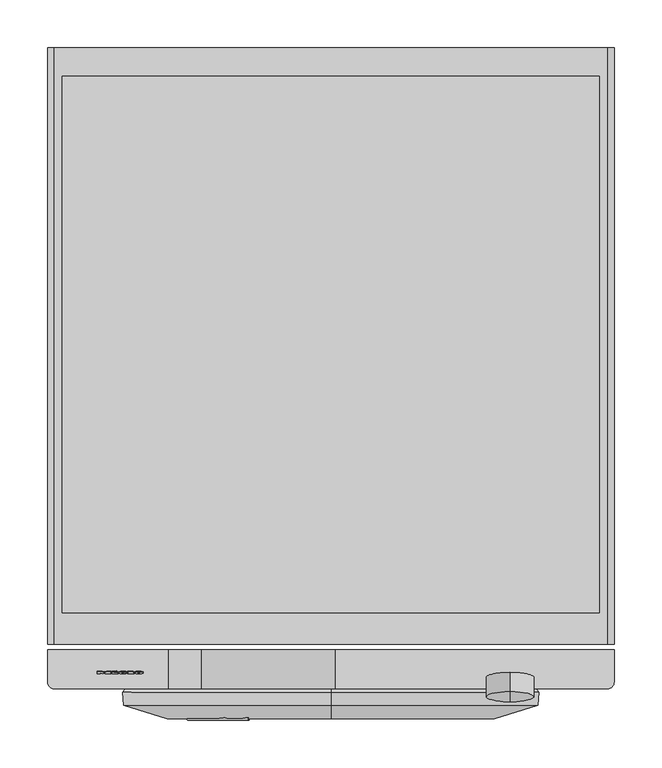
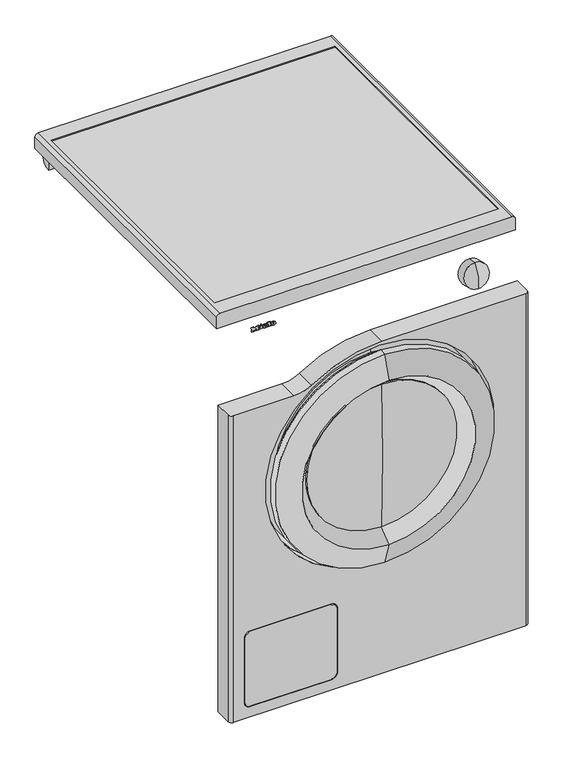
"""IFC4 building model written with IfcOpenShell, lengths in millimetres: proxy geometry, 11169820_ZER_PWM507DP_LWSpecial : 51507191_ZER_11169820_PWM507DP_LWSpecial."""

from ifc_helpers import new_model, si_unit, point, frame, frame_2d, origin, place, context, project, spatial, polyline, circle_curve, ellipse_curve, trimmed, segment, composite_curve, outline, extrude, source, transform, mapped, element, save
from ifc_brep_helpers import plane_surface, cylinder_surface, revolved_surface, extruded_surface, advanced_brep


def specialty_equipment_2d1db38d(model_context):
    return source(origin(), model_context, "Body", "SolidModel", [
        advanced_brep(
        [(298.0, -637.0, 712.0), (298.0, -637.0, 13.5), (-298.0, -637.0, 13.5), (-298.0, -637.0, 659.0), (-170.4793435, -637.0, 659.0), (-135.8816811, -637.0, 669.4495268), (5.0, -637.0, 712.0), (0.0, -637.0, 628.0), (0.0, -637.0, 328.0), (-97.8720399, -637.0, 194.7938843), (-257.5266894, -637.0, 194.7938843), (-269.1610931, -637.0, 183.1594806), (-269.1610931, -637.0, 47.2319133), (-257.1610931, -637.0, 35.2319133), (-96.1598327, -637.0, 35.2319133), (-84.1993866, -637.0, 47.1923594), (-84.1993866, -637.0, 184.6186728), (-291.0, -678.0, 13.5), (291.0, -678.0, 13.5), (291.0, -678.0, 712.0), (5.0, -678.0, 712.0), (-135.8816811, -678.0, 669.4495268), (-170.4793435, -678.0, 659.0), (-291.0, -678.0, 659.0), (0.0, -678.0, 250.5), (0.0, -678.0, 705.5), (-257.5266894, -678.0, 194.7938843), (-97.8720399, -678.0, 194.7938843), (-84.1993866, -678.0, 184.6186728), (-84.1993866, -678.0, 47.1923594), (-96.1598327, -678.0, 35.2319133), (-257.1610931, -678.0, 35.2319133), (-269.1610931, -678.0, 47.2319133), (-269.1610931, -678.0, 183.1594806), (298.0, -671.0, 712.0), (-298.0, -671.0, 13.5), (-298.0, -671.0, 659.0), (298.0, -671.0, 13.5), (0.0, -653.2, 705.5), (0.0, -653.2, 250.5), (0.0, -645.7, 671.0), (0.0, -645.7, 698.0), (0.0, -645.7, 258.0), (0.0, -645.7, 285.0), (0.0, -638.7, 289.0414519), (0.0, -638.7, 666.9585481), (0.0, -638.7, 322.8), (0.0, -638.7, 633.2), (0.0, -648.5, 322.8), (0.0, -648.5, 633.2), (0.0, -648.5, 341.8), (0.0, -648.5, 614.2), (0.0, -646.0, 341.8), (0.0, -646.0, 614.2), (0.0, -646.0, 328.0), (0.0, -646.0, 628.0)],
        [
            (0, 1),
            (1, 2),
            (2, 3),
            (3, 4),
            (4, 5, circle_curve(frame((-170.4793435, -637.0, 721.5), z_axis=(0.0, -1.0, 0.0), x_axis=(1.0, 0.0, 0.0)), 62.5)),
            (5, 6, circle_curve(frame((5.0, -637.0, 457.5), z_axis=(0.0, 1.0, 0.0), x_axis=(1.0, 0.0, 0.0)), 254.5)),
            (6, 0),
            (7, 8, circle_curve(frame((0.0, -637.0, 478.0), z_axis=(0.0, -1.0, 0.0), x_axis=(0.0, 0.0, -1.0)), 150.0)),
            (8, 7, circle_curve(frame((0.0, -637.0, 478.0), z_axis=(0.0, -1.0, 0.0), x_axis=(0.0, 0.0, -1.0)), 150.0)),
            (9, 10),
            (10, 11, circle_curve(frame((-257.5266894, -637.0, 183.1594806), z_axis=(0.0, -1.0, 0.0), x_axis=(1.0, 0.0, 0.0)), 11.6344037)),
            (11, 12),
            (12, 13, circle_curve(frame((-257.1610931, -637.0, 47.2319133), z_axis=(0.0, -1.0, 0.0), x_axis=(1.0, 0.0, 0.0)), 12.0)),
            (13, 14),
            (14, 15, circle_curve(frame((-96.1598327, -637.0, 47.1923594), z_axis=(0.0, -1.0, 0.0), x_axis=(1.0, 0.0, 0.0)), 11.9604461)),
            (15, 16),
            (16, 9, circle_curve(frame((-97.8720399, -637.0, 180.5201576), z_axis=(0.0, -1.0, 0.0), x_axis=(1.0, 0.0, 0.0)), 14.2737268)),
            (17, 18),
            (18, 19),
            (19, 20),
            (20, 21, circle_curve(frame((5.0, -678.0, 457.5), z_axis=(0.0, -1.0, 0.0), x_axis=(1.0, 0.0, 0.0)), 254.5)),
            (21, 22, circle_curve(frame((-170.4793435, -678.0, 721.5), z_axis=(0.0, 1.0, 0.0), x_axis=(1.0, 0.0, 0.0)), 62.5)),
            (22, 23),
            (23, 17),
            (24, 25, circle_curve(frame((0.0, -678.0, 478.0), z_axis=(0.0, 1.0, 0.0), x_axis=(0.0, 0.0, -1.0)), 227.5)),
            (25, 24, circle_curve(frame((0.0, -678.0, 478.0), z_axis=(0.0, 1.0, 0.0), x_axis=(0.0, 0.0, -1.0)), 227.5)),
            (26, 27),
            (27, 28, circle_curve(frame((-97.8720399, -678.0, 180.5201576), z_axis=(0.0, 1.0, 0.0), x_axis=(1.0, 0.0, 0.0)), 14.2737268)),
            (28, 29),
            (29, 30, circle_curve(frame((-96.1598327, -678.0, 47.1923594), z_axis=(0.0, 1.0, 0.0), x_axis=(1.0, 0.0, 0.0)), 11.9604461)),
            (30, 31),
            (31, 32, circle_curve(frame((-257.1610931, -678.0, 47.2319133), z_axis=(0.0, 1.0, 0.0), x_axis=(1.0, 0.0, 0.0)), 12.0)),
            (32, 33),
            (33, 26, circle_curve(frame((-257.5266894, -678.0, 183.1594806), z_axis=(0.0, 1.0, 0.0), x_axis=(1.0, 0.0, 0.0)), 11.6344037)),
            (34, 0),
            (6, 20),
            (19, 34, circle_curve(frame((291.0, -671.0, 712.0), z_axis=(0.0, 0.0, 1.0), x_axis=(-1.0, 0.0, 0.0)), 7.0)),
            (2, 35),
            (35, 36),
            (36, 3),
            (1, 37),
            (37, 18, circle_curve(frame((291.0, -671.0, 13.5), z_axis=(0.0, 0.0, -1.0), x_axis=(-1.0, 0.0, 0.0)), 7.0)),
            (17, 35, circle_curve(frame((-291.0, -671.0, 13.5), z_axis=(0.0, 0.0, -1.0), x_axis=(-1.0, 0.0, 0.0)), 7.0)),
            (34, 37),
            (38, 25),
            (24, 39),
            (39, 38, circle_curve(frame((0.0, -653.2, 478.0), z_axis=(0.0, 1.0, 0.0), x_axis=(0.0, 0.0, -1.0)), 227.5)),
            (38, 39, circle_curve(frame((0.0, -653.2, 478.0), z_axis=(0.0, 1.0, 0.0), x_axis=(0.0, 0.0, -1.0)), 227.5)),
            (40, 41),
            (41, 42, circle_curve(frame((0.0, -645.7, 478.0), z_axis=(0.0, -1.0, 0.0), x_axis=(0.0, 0.0, -1.0)), 220.0)),
            (42, 43),
            (43, 40, circle_curve(frame((0.0, -645.7, 478.0), z_axis=(0.0, 1.0, 0.0), x_axis=(0.0, 0.0, -1.0)), 193.0)),
            (40, 43, circle_curve(frame((0.0, -645.7, 478.0), z_axis=(0.0, 1.0, 0.0), x_axis=(0.0, 0.0, -1.0)), 193.0)),
            (42, 41, circle_curve(frame((0.0, -645.7, 478.0), z_axis=(0.0, -1.0, 0.0), x_axis=(0.0, 0.0, -1.0)), 220.0)),
            (43, 44),
            (44, 45, circle_curve(frame((0.0, -638.7, 478.0), z_axis=(0.0, 1.0, 0.0), x_axis=(0.0, 0.0, -1.0)), 188.9585481)),
            (45, 40),
            (45, 44, circle_curve(frame((0.0, -638.7, 478.0), z_axis=(0.0, 1.0, 0.0), x_axis=(0.0, 0.0, -1.0)), 188.9585481)),
            (44, 46),
            (46, 47, circle_curve(frame((0.0, -638.7, 478.0), z_axis=(0.0, 1.0, 0.0), x_axis=(0.0, 0.0, -1.0)), 155.2)),
            (47, 45),
            (47, 46, circle_curve(frame((0.0, -638.7, 478.0), z_axis=(0.0, 1.0, 0.0), x_axis=(0.0, 0.0, -1.0)), 155.2)),
            (46, 48),
            (48, 49, circle_curve(frame((0.0, -648.5, 478.0), z_axis=(0.0, 1.0, 0.0), x_axis=(0.0, 0.0, -1.0)), 155.2)),
            (49, 47),
            (49, 48, circle_curve(frame((0.0, -648.5, 478.0), z_axis=(0.0, 1.0, 0.0), x_axis=(0.0, 0.0, -1.0)), 155.2)),
            (48, 50),
            (50, 51, circle_curve(frame((0.0, -648.5, 478.0), z_axis=(0.0, 1.0, 0.0), x_axis=(0.0, 0.0, -1.0)), 136.2)),
            (51, 49),
            (51, 50, circle_curve(frame((0.0, -648.5, 478.0), z_axis=(0.0, 1.0, 0.0), x_axis=(0.0, 0.0, -1.0)), 136.2)),
            (50, 52),
            (52, 53, circle_curve(frame((0.0, -646.0, 478.0), z_axis=(0.0, 1.0, 0.0), x_axis=(0.0, 0.0, -1.0)), 136.2)),
            (53, 51),
            (53, 52, circle_curve(frame((0.0, -646.0, 478.0), z_axis=(0.0, 1.0, 0.0), x_axis=(0.0, 0.0, -1.0)), 136.2)),
            (52, 54),
            (54, 55, circle_curve(frame((0.0, -646.0, 478.0), z_axis=(0.0, 1.0, 0.0), x_axis=(0.0, 0.0, -1.0)), 150.0)),
            (55, 53),
            (55, 54, circle_curve(frame((0.0, -646.0, 478.0), z_axis=(0.0, 1.0, 0.0), x_axis=(0.0, 0.0, -1.0)), 150.0)),
            (54, 8),
            (7, 55),
            (39, 42, circle_curve(frame((0.0, -653.2, 258.0), z_axis=(1.0, 0.0, 0.0), x_axis=(0.0, 1.0, 0.0)), 7.5)),
            (41, 38, circle_curve(frame((0.0, -653.2, 698.0), z_axis=(1.0, 0.0, 0.0), x_axis=(0.0, 1.0, 0.0)), 7.5)),
            (23, 36, circle_curve(frame((-291.0, -671.0, 659.0), z_axis=(0.0, 0.0, -1.0), x_axis=(-1.0, 0.0, 0.0)), 7.0)),
            (5, 21),
            (4, 22),
            (26, 10),
            (9, 27),
            (33, 11),
            (32, 12),
            (31, 13),
            (30, 14),
            (29, 15),
            (28, 16),
        ],
        [
            plane_surface(frame((-298.0, -637.0, 712.0), z_axis=(0.0, 1.0, 0.0), x_axis=(1.0, 0.0, 0.0))),
            plane_surface(frame((-298.0, -678.0, 712.0), z_axis=(0.0, -1.0, 0.0), x_axis=(-1.0, 0.0, 0.0))),
            plane_surface(frame((298.0, -678.0, 712.0), z_axis=(0.0, 0.0, 1.0), x_axis=(0.0, 1.0, 0.0))),
            plane_surface(frame((-298.0, -678.0, 712.0), z_axis=(-1.0, 0.0, 0.0), x_axis=(0.0, 1.0, 0.0))),
            plane_surface(frame((-298.0, -678.0, 13.5), z_axis=(0.0, 0.0, -1.0), x_axis=(0.0, 1.0, 0.0))),
            plane_surface(frame((298.0, -678.0, 13.5), z_axis=(1.0, 0.0, 0.0), x_axis=(0.0, 1.0, 0.0))),
            revolved_surface(polyline([(0.0, -653.2000000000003, 250.5), (0.0, -678.0, 250.5)]), (0.0, 1543.3738435, 478.0), (0.0, 1.0, 0.0)),
            plane_surface(frame((0.0, -645.7, 478.0), z_axis=(0.0, -1.0, 0.0), x_axis=(0.0, 0.0, -1.0))),
            revolved_surface(polyline([(0.0, -638.7, 289.0414519), (0.0, -645.7, 285.0)]), (0.0, 1543.3738435, 478.0), (0.0, 1.0, 0.0)),
            plane_surface(frame((0.0, -638.7, 478.0), z_axis=(0.0, -1.0, 0.0), x_axis=(0.0, 0.0, -1.0))),
            cylinder_surface(frame((0.0, 1543.3738435, 478.0), z_axis=(0.0, 1.0, 0.0), x_axis=(0.0, 0.0, -1.0)), 155.2),
            plane_surface(frame((0.0, -648.5, 478.0), z_axis=(0.0, -1.0, 0.0), x_axis=(0.0, 0.0, -1.0))),
            revolved_surface(polyline([(0.0, -646.0, 341.8), (0.0, -648.5, 341.8)]), (0.0, 1543.3738435, 478.0), (0.0, 1.0, 0.0)),
            plane_surface(frame((0.0, -646.0, 478.0), z_axis=(0.0, 1.0, 0.0), x_axis=(0.0, 0.0, -1.0))),
            revolved_surface(polyline([(0.0, -637.0, 328.0), (0.0, -646.0, 328.0)]), (0.0, 1543.3738435, 478.0), (0.0, 1.0, 0.0)),
            revolved_surface(trimmed(ellipse_curve(frame((0.0, -653.2, 258.0), z_axis=(-1.0, 0.0, 0.0), x_axis=(0.0, 1.0, 0.0)), 7.5, 7.5), [point((0.0, -645.7, 258.0))], [point((0.0, -653.2, 250.5))], True, "CARTESIAN"), (0.0, 1543.3738435, 478.0), (0.0, 1.0, 0.0)),
            cylinder_surface(frame((-291.0, -671.0, 712.0), z_axis=(0.0, 0.0, -1.0), x_axis=(-1.0, 0.0, 0.0)), 7.0),
            cylinder_surface(frame((291.0, -671.0, 712.0), z_axis=(0.0, 0.0, -1.0), x_axis=(-1.0, 0.0, 0.0)), 7.0),
            cylinder_surface(frame((5.0, -637.0, 457.5), z_axis=(0.0, 1.0, 0.0), x_axis=(1.0, 0.0, 0.0)), 254.5),
            revolved_surface(polyline([(-107.9793435, -678.0, 721.5), (-107.9793435, -637.0, 721.5)]), (-170.4793435, -637.0, 721.5), (0.0, -1.0, 0.0)),
            plane_surface(frame((-298.0, -678.0, 659.0), z_axis=(0.0, 0.0, 1.0), x_axis=(0.0, 1.0, 0.0))),
            plane_surface(frame((-97.8720399, -678.0, 194.7938843), z_axis=(0.0, 0.0, -1.0), x_axis=(0.0, 1.0, 0.0))),
            revolved_surface(polyline([(-245.8922857, -678.0, 183.1594806), (-245.8922857, -637.0, 183.1594806)]), (-257.5266894, -637.0, 183.1594806), (0.0, -1.0, 0.0)),
            plane_surface(frame((-269.1610931, -678.0, 183.1594806), z_axis=(1.0, 0.0, 0.0), x_axis=(0.0, 1.0, 0.0))),
            revolved_surface(polyline([(-245.16109310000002, -678.0, 47.2319133), (-245.16109310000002, -637.0, 47.2319133)]), (-257.1610931, -637.0, 47.2319133), (0.0, -1.0, 0.0)),
            plane_surface(frame((-257.1610931, -678.0, 35.2319133), z_axis=(0.0, 0.0, 1.0), x_axis=(0.0, 1.0, 0.0))),
            revolved_surface(polyline([(-84.1993866, -678.0, 47.1923594), (-84.1993866, -637.0, 47.1923594)]), (-96.1598327, -637.0, 47.1923594), (0.0, -1.0, 0.0)),
            plane_surface(frame((-84.1993866, -678.0, 47.1923594), z_axis=(-1.0, 0.0, 0.0), x_axis=(0.0, 1.0, 0.0))),
            revolved_surface(polyline([(-83.5983131, -678.0, 180.5201576), (-83.5983131, -637.0, 180.5201576)]), (-97.8720399, -637.0, 180.5201576), (0.0, -1.0, 0.0)),
        ],
        [
            (0, [[1, 2, 3, 4, 5, 6, 7], [8, 9], [10, 11, 12, 13, 14, 15, 16, 17]]),
            (1, [[18, 19, 20, 21, 22, 23, 24], [25, 26], [27, 28, 29, 30, 31, 32, 33, 34]]),
            (2, [[35, -7, 36, -20, 37]]),
            (3, [[38, 39, 40, -3]]),
            (4, [[-2, 41, 42, -18, 43, -38]]),
            (5, [[-1, -35, 44, -41]]),
            (6, [[45, -25, 46, 47]]),
            (6, [[-45, 48, -46, -26]]),
            (7, [[49, 50, 51, 52]]),
            (7, [[-49, 53, -51, 54]]),
            (8, [[-52, 55, 56, 57]]),
            (8, [[-53, -57, 58, -55]]),
            (9, [[-56, 59, 60, 61]]),
            (9, [[-58, -61, 62, -59]]),
            (10, [[-60, 63, 64, 65]]),
            (10, [[-62, -65, 66, -63]]),
            (11, [[-64, 67, 68, 69]]),
            (11, [[-66, -69, 70, -67]]),
            (12, [[-68, 71, 72, 73]]),
            (12, [[-70, -73, 74, -71]]),
            (13, [[-72, 75, 76, 77]]),
            (13, [[-74, -77, 78, -75]]),
            (14, [[-76, 79, -8, 80]]),
            (14, [[-78, -80, -9, -79]]),
            (15, [[-47, 81, -50, 82]]),
            (15, [[-48, -82, -54, -81]]),
            (16, [[-43, -24, 83, -39]]),
            (17, [[-19, -42, -44, -37]]),
            (18, [[84, -21, -36, -6]]),
            (19, [[-84, -5, 85, -22]]),
            (20, [[-85, -4, -40, -83, -23]]),
            (21, [[86, -10, 87, -27]]),
            (22, [[-86, -34, 88, -11]]),
            (23, [[-88, -33, 89, -12]]),
            (24, [[-89, -32, 90, -13]]),
            (25, [[-90, -31, 91, -14]]),
            (26, [[-91, -30, 92, -15]]),
            (27, [[-92, -29, 93, -16]]),
            (28, [[-87, -17, -93, -28]]),
        ],
    ),
        advanced_brep(
        [(-85.1993866, -637.0, 178.871588), (-85.1993866, -637.0, 49.2598644), (-98.2273377, -637.0, 36.2319133), (-257.1610931, -637.0, 36.2319133), (-268.1610931, -637.0, 47.2319133), (-268.1610931, -637.0, 180.922098), (-255.2893068, -637.0, 193.7938843), (-99.0652877, -637.0, 193.7938843), (-85.1993866, -678.0, 49.2598644), (-85.1993866, -678.0, 178.871588), (-99.0652877, -678.0, 193.7938843), (-255.2893068, -678.0, 193.7938843), (-268.1610931, -678.0, 180.922098), (-268.1610931, -678.0, 47.2319133), (-257.1610931, -678.0, 36.2319133), (-98.2273377, -678.0, 36.2319133)],
        [
            (0, 1),
            (1, 2, circle_curve(frame((-98.2273377, -637.0, 49.2598644), z_axis=(0.0, 1.0, 0.0), x_axis=(1.0, 0.0, 0.0)), 13.0279511)),
            (2, 3),
            (3, 4, circle_curve(frame((-257.1610931, -637.0, 47.2319133), z_axis=(0.0, 1.0, 0.0), x_axis=(1.0, 0.0, 0.0)), 11.0)),
            (4, 5),
            (5, 6, circle_curve(frame((-255.2893068, -637.0, 180.922098), z_axis=(0.0, 1.0, 0.0), x_axis=(1.0, 0.0, 0.0)), 12.8717863)),
            (6, 7),
            (7, 0, circle_curve(frame((-99.9078885, -637.0, 179.10764), z_axis=(0.0, 1.0, 0.0), x_axis=(1.0, 0.0, 0.0)), 14.7103959)),
            (8, 9),
            (9, 10, circle_curve(frame((-99.9078885, -678.0, 179.10764), z_axis=(0.0, -1.0, 0.0), x_axis=(1.0, 0.0, 0.0)), 14.7103959)),
            (10, 11),
            (11, 12, circle_curve(frame((-255.2893068, -678.0, 180.922098), z_axis=(0.0, -1.0, 0.0), x_axis=(1.0, 0.0, 0.0)), 12.8717863)),
            (12, 13),
            (13, 14, circle_curve(frame((-257.1610931, -678.0, 47.2319133), z_axis=(0.0, -1.0, 0.0), x_axis=(1.0, 0.0, 0.0)), 11.0)),
            (14, 15),
            (15, 8, circle_curve(frame((-98.2273377, -678.0, 49.2598644), z_axis=(0.0, -1.0, 0.0), x_axis=(1.0, 0.0, 0.0)), 13.0279511)),
            (8, 1),
            (0, 9),
            (15, 2),
            (14, 3),
            (13, 4),
            (12, 5),
            (11, 6),
            (10, 7),
        ],
        [
            plane_surface(frame((-298.0, -637.0, 712.0), z_axis=(0.0, 1.0, 0.0), x_axis=(1.0, 0.0, 0.0))),
            plane_surface(frame((-298.0, -678.0, 712.0), z_axis=(0.0, -1.0, 0.0), x_axis=(-1.0, 0.0, 0.0))),
            plane_surface(frame((-85.1993866, -678.0, 178.871588), z_axis=(1.0, 0.0, 0.0), x_axis=(0.0, 1.0, 0.0))),
            cylinder_surface(frame((-98.2273377, 0.0, 49.2598644), z_axis=(0.0, 1.0, 0.0), x_axis=(1.0, 0.0, 0.0)), 13.0279511),
            plane_surface(frame((-98.2273377, -678.0, 36.2319133), z_axis=(0.0, 0.0, -1.0), x_axis=(0.0, 1.0, 0.0))),
            cylinder_surface(frame((-257.1610931, 0.0, 47.2319133), z_axis=(0.0, 1.0, 0.0), x_axis=(1.0, 0.0, 0.0)), 11.0),
            plane_surface(frame((-268.1610931, -678.0, 47.2319133), z_axis=(-1.0, 0.0, 0.0), x_axis=(0.0, 1.0, 0.0))),
            cylinder_surface(frame((-255.2893068, 0.0, 180.922098), z_axis=(0.0, 1.0, 0.0), x_axis=(1.0, 0.0, 0.0)), 12.8717863),
            plane_surface(frame((-255.2893068, -678.0, 193.7938843), z_axis=(0.0, 0.0, 1.0), x_axis=(0.0, 1.0, 0.0))),
            cylinder_surface(frame((-99.9078885, 0.0, 179.10764), z_axis=(0.0, 1.0, 0.0), x_axis=(1.0, 0.0, 0.0)), 14.7103959),
        ],
        [
            (0, [[1, 2, 3, 4, 5, 6, 7, 8]]),
            (1, [[9, 10, 11, 12, 13, 14, 15, 16]]),
            (2, [[17, -1, 18, -9]]),
            (3, [[-17, -16, 19, -2]]),
            (4, [[-19, -15, 20, -3]]),
            (5, [[-20, -14, 21, -4]]),
            (6, [[-21, -13, 22, -5]]),
            (7, [[-22, -12, 23, -6]]),
            (8, [[-23, -11, 24, -7]]),
            (9, [[-18, -8, -24, -10]]),
        ],
    ),
        advanced_brep(
        [(-202.64, -661.6785086, 811.5729364), (-202.64, -661.5105159, 812.3632796), (-197.288, -661.5105159, 812.3632796), (-206.6, -661.5105159, 812.3632796), (-204.4, -662.0727091, 809.7183685), (-197.424, -661.6785086, 811.5729364), (-199.84, -661.6785086, 811.5729364), (-201.744, -661.8647975, 810.6965161), (-202.64, -661.2976144, 813.3649028), (-202.64, -661.1163154, 814.2178475), (-201.272, -661.1163154, 814.2178475), (-201.272, -661.2976144, 813.3649028), (-202.64, -660.700361, 811.3650247), (-201.744, -660.8866499, 810.4886044), (-199.84, -660.700361, 811.3650247), (-197.424, -660.700361, 811.3650247), (-204.4, -661.0945615, 809.5104568), (-206.6, -660.5323683, 812.1553679), (-197.288, -660.5323683, 812.1553679), (-202.64, -660.5323683, 812.1553679), (-202.64, -660.3194668, 813.1569911), (-201.272, -660.3194668, 813.1569911), (-201.272, -660.1381678, 814.0099358), (-202.64, -660.1381678, 814.0099358)],
        [
            (0, 1),
            (1, 2),
            (2, 3, ellipse_curve(frame((-201.944, -661.5105159, 812.3632796), z_axis=(0.0, -0.9781476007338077, 0.2079116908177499), x_axis=(-1.0, 0.0, 0.0)), 4.656, 3.848)),
            (3, 4, circle_curve(frame((-203.5039564, -661.453964, 812.6293358), z_axis=(0.0, -0.9781476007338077, 0.2079116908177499), x_axis=(0.0, -0.2079116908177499, -0.9781476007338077)), 3.1079688)),
            (4, 5, circle_curve(frame((-202.0372064, -661.0148545, 814.6951835), z_axis=(0.0, -0.9781476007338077, 0.2079116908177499), x_axis=(0.0, -0.2079116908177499, -0.9781476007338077)), 5.6098607)),
            (5, 6),
            (6, 7, circle_curve(frame((-201.3529412, -661.5238223, 812.3006782), z_axis=(0.0, 0.9781476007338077, -0.2079116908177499), x_axis=(0.0, -0.2079116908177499, -0.9781476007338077)), 1.6859795)),
            (7, 0, circle_curve(frame((-201.744, -661.6785086, 811.5729364), z_axis=(0.0, 0.9781476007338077, -0.2079116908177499), x_axis=(0.0, -0.2079116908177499, -0.9781476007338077)), 0.896)),
            (8, 9),
            (9, 10, circle_curve(frame((-201.956, -661.1163154, 814.2178475), z_axis=(0.0, 0.9781476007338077, -0.2079116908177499), x_axis=(0.0, -0.2079116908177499, -0.9781476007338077)), 0.684)),
            (10, 11),
            (11, 8),
            (12, 13, circle_curve(frame((-201.744, -660.700361, 811.3650247), z_axis=(0.0, -0.9781476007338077, 0.2079116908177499), x_axis=(0.0, -0.2079116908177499, -0.9781476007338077)), 0.896)),
            (13, 14, circle_curve(frame((-201.3529412, -660.5456747, 812.0927665), z_axis=(0.0, -0.9781476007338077, 0.2079116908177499), x_axis=(0.0, -0.2079116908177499, -0.9781476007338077)), 1.6859795)),
            (14, 15),
            (15, 16, circle_curve(frame((-202.0372064, -660.0367069, 814.4872718), z_axis=(0.0, 0.9781476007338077, -0.2079116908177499), x_axis=(0.0, -0.2079116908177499, -0.9781476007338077)), 5.6098607)),
            (16, 17, circle_curve(frame((-203.5039564, -660.4758164, 812.4214241), z_axis=(0.0, 0.9781476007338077, -0.2079116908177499), x_axis=(0.0, -0.2079116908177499, -0.9781476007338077)), 3.1079688)),
            (17, 18, ellipse_curve(frame((-201.944, -660.5323683, 812.1553679), z_axis=(0.0, 0.9781476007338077, -0.2079116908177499), x_axis=(-1.0, 0.0, 0.0)), 4.656, 3.848)),
            (18, 19),
            (19, 12),
            (20, 21),
            (21, 22),
            (22, 23, circle_curve(frame((-201.956, -660.1381678, 814.0099358), z_axis=(0.0, -0.9781476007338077, 0.2079116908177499), x_axis=(0.0, -0.2079116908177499, -0.9781476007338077)), 0.684)),
            (23, 20),
            (0, 12),
            (19, 1),
            (18, 2),
            (5, 15),
            (14, 6),
            (17, 3),
            (13, 7),
            (16, 4),
            (8, 20),
            (23, 9),
            (22, 10),
            (21, 11),
        ],
        [
            plane_surface(frame((-202.64, -661.5105159, 812.3632796), z_axis=(0.0, -0.9781476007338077, 0.2079116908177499), x_axis=(0.0, 0.2079116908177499, 0.9781476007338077))),
            plane_surface(frame((-202.64, -660.5323683, 812.1553679), z_axis=(0.0, 0.9781476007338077, -0.2079116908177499), x_axis=(0.0, -0.2079116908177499, -0.9781476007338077))),
            plane_surface(frame((-202.64, -661.6785086, 811.5729364), z_axis=(1.0000000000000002, 0.0, 0.0), x_axis=(0.0, 0.978147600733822, -0.20791169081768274))),
            plane_surface(frame((-202.64, -661.5105159, 812.3632796), z_axis=(0.0, -0.20791169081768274, -0.978147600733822), x_axis=(0.0, 0.978147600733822, -0.20791169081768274))),
            plane_surface(frame((-197.424, -661.6785086, 811.5729364), z_axis=(0.0, 0.20791169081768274, 0.978147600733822), x_axis=(0.0, 0.978147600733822, -0.20791169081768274))),
            extruded_surface(trimmed(ellipse_curve(frame((-201.944, -659.5542207, 811.9474562), z_axis=(0.0, -0.9781476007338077, 0.2079116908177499), x_axis=(-1.0, 0.0, 0.0)), 4.656, 3.848), [point((-197.288, -659.5542207, 811.9474562))], [point((-206.6, -659.5542207, 811.9474562))], True, "CARTESIAN"), (0.0, -0.9781476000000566, 0.20791169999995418), 1.0000000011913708),
            revolved_surface(polyline([(-201.3529412, -660.896209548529, 810.4436296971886), (-201.3529412, -661.8743571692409, 810.6515413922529)]), (-201.3529412, -660.5456747, 812.0927665), (0.0, 0.9781476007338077, -0.2079116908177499)),
            revolved_surface(polyline([(-201.744, -660.8866498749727, 810.4886044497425), (-201.744, -661.8647974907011, 810.6965161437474)]), (-201.744, -660.700361, 811.3650247), (0.0, 0.9781476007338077, -0.2079116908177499)),
            cylinder_surface(frame((-203.5039564, -660.4758164, 812.4214241), z_axis=(0.0, -0.9781476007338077, 0.2079116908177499), x_axis=(0.0, -0.2079116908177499, -0.9781476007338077)), 3.1079688),
            cylinder_surface(frame((-202.0372064, -660.0367069, 814.4872718), z_axis=(0.0, -0.9781476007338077, 0.2079116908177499), x_axis=(0.0, -0.2079116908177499, -0.9781476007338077)), 5.6098607),
            plane_surface(frame((-202.64, -661.2976144, 813.3649028), z_axis=(1.0000000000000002, 0.0, 0.0), x_axis=(0.0, 0.9781476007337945, -0.20791169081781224))),
            revolved_surface(polyline([(-201.956, -660.2803793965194, 813.340882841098), (-201.956, -661.2585269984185, 813.5487945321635)]), (-201.956, -660.1381678, 814.0099358), (0.0, 0.9781476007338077, -0.2079116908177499)),
            plane_surface(frame((-201.272, -661.1163154, 814.2178475), z_axis=(-1.0000000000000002, 0.0, 0.0), x_axis=(0.0, 0.978147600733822, -0.20791169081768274))),
            plane_surface(frame((-201.272, -661.2976144, 813.3649028), z_axis=(0.0, 0.20791169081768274, 0.978147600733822), x_axis=(0.0, 0.978147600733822, -0.20791169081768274))),
        ],
        [
            (0, [[1, 2, 3, 4, 5, 6, 7, 8], [9, 10, 11, 12]]),
            (1, [[13, 14, 15, 16, 17, 18, 19, 20], [21, 22, 23, 24]]),
            (2, [[-1, 25, -20, 26]]),
            (3, [[-2, -26, -19, 27]]),
            (4, [[-6, 28, -15, 29]]),
            (5, [[-3, -27, -18, 30]]),
            (6, [[-7, -29, -14, 31]]),
            (7, [[-8, -31, -13, -25]]),
            (8, [[-4, -30, -17, 32]]),
            (9, [[-5, -32, -16, -28]]),
            (10, [[-9, 33, -24, 34]]),
            (11, [[-10, -34, -23, 35]]),
            (12, [[-11, -35, -22, 36]]),
            (13, [[-12, -36, -21, -33]]),
        ],
    ),
        advanced_brep(
        [(-219.336, -661.6785086, 811.5729364), (-219.336, -661.5105159, 812.3632796), (-213.984, -661.5105159, 812.3632796), (-223.296, -661.5105159, 812.3632796), (-221.096, -662.0727091, 809.7183685), (-214.12, -661.6785086, 811.5729364), (-216.536, -661.6785086, 811.5729364), (-218.44, -661.8647975, 810.6965161), (-219.336, -661.2976144, 813.3649028), (-219.336, -661.1163154, 814.2178475), (-217.968, -661.1163154, 814.2178475), (-217.968, -661.2976144, 813.3649028), (-219.336, -660.700361, 811.3650247), (-218.44, -660.8866499, 810.4886044), (-216.536, -660.700361, 811.3650247), (-214.12, -660.700361, 811.3650247), (-221.096, -661.0945615, 809.5104568), (-223.296, -660.5323683, 812.1553679), (-213.984, -660.5323683, 812.1553679), (-219.336, -660.5323683, 812.1553679), (-219.336, -660.3194668, 813.1569911), (-217.968, -660.3194668, 813.1569911), (-217.968, -660.1381678, 814.0099358), (-219.336, -660.1381678, 814.0099358)],
        [
            (0, 1),
            (1, 2),
            (2, 3, ellipse_curve(frame((-218.64, -661.5105159, 812.3632796), z_axis=(0.0, -0.9781476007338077, 0.2079116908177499), x_axis=(-1.0, 0.0, 0.0)), 4.656, 3.848)),
            (3, 4, circle_curve(frame((-220.1999564, -661.453964, 812.6293358), z_axis=(0.0, -0.9781476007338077, 0.2079116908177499), x_axis=(0.0, -0.2079116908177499, -0.9781476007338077)), 3.1079688)),
            (4, 5, circle_curve(frame((-218.7332064, -661.0148545, 814.6951835), z_axis=(0.0, -0.9781476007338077, 0.2079116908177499), x_axis=(0.0, -0.2079116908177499, -0.9781476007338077)), 5.6098607)),
            (5, 6),
            (6, 7, circle_curve(frame((-218.0489412, -661.5238223, 812.3006782), z_axis=(0.0, 0.9781476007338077, -0.2079116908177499), x_axis=(0.0, -0.2079116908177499, -0.9781476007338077)), 1.6859795)),
            (7, 0, circle_curve(frame((-218.44, -661.6785086, 811.5729364), z_axis=(0.0, 0.9781476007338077, -0.2079116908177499), x_axis=(0.0, -0.2079116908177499, -0.9781476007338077)), 0.896)),
            (8, 9),
            (9, 10, circle_curve(frame((-218.652, -661.1163154, 814.2178475), z_axis=(0.0, 0.9781476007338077, -0.2079116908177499), x_axis=(0.0, -0.2079116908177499, -0.9781476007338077)), 0.684)),
            (10, 11),
            (11, 8),
            (12, 13, circle_curve(frame((-218.44, -660.700361, 811.3650247), z_axis=(0.0, -0.9781476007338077, 0.2079116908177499), x_axis=(0.0, -0.2079116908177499, -0.9781476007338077)), 0.896)),
            (13, 14, circle_curve(frame((-218.0489412, -660.5456747, 812.0927665), z_axis=(0.0, -0.9781476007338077, 0.2079116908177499), x_axis=(0.0, -0.2079116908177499, -0.9781476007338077)), 1.6859795)),
            (14, 15),
            (15, 16, circle_curve(frame((-218.7332064, -660.0367069, 814.4872718), z_axis=(0.0, 0.9781476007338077, -0.2079116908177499), x_axis=(0.0, -0.2079116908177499, -0.9781476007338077)), 5.6098607)),
            (16, 17, circle_curve(frame((-220.1999564, -660.4758164, 812.4214241), z_axis=(0.0, 0.9781476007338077, -0.2079116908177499), x_axis=(0.0, -0.2079116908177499, -0.9781476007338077)), 3.1079688)),
            (17, 18, ellipse_curve(frame((-218.64, -660.5323683, 812.1553679), z_axis=(0.0, 0.9781476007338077, -0.2079116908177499), x_axis=(-1.0, 0.0, 0.0)), 4.656, 3.848)),
            (18, 19),
            (19, 12),
            (20, 21),
            (21, 22),
            (22, 23, circle_curve(frame((-218.652, -660.1381678, 814.0099358), z_axis=(0.0, -0.9781476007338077, 0.2079116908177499), x_axis=(0.0, -0.2079116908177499, -0.9781476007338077)), 0.684)),
            (23, 20),
            (0, 12),
            (19, 1),
            (18, 2),
            (5, 15),
            (14, 6),
            (17, 3),
            (13, 7),
            (16, 4),
            (8, 20),
            (23, 9),
            (22, 10),
            (21, 11),
        ],
        [
            plane_surface(frame((-219.336, -661.5105159, 812.3632796), z_axis=(0.0, -0.9781476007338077, 0.2079116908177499), x_axis=(0.0, 0.2079116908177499, 0.9781476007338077))),
            plane_surface(frame((-219.336, -660.5323683, 812.1553679), z_axis=(0.0, 0.9781476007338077, -0.2079116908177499), x_axis=(0.0, -0.2079116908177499, -0.9781476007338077))),
            plane_surface(frame((-219.336, -661.6785086, 811.5729364), z_axis=(1.0000000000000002, 0.0, 0.0), x_axis=(0.0, 0.978147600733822, -0.20791169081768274))),
            plane_surface(frame((-219.336, -661.5105159, 812.3632796), z_axis=(0.0, -0.20791169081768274, -0.978147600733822), x_axis=(0.0, 0.978147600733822, -0.20791169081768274))),
            plane_surface(frame((-214.12, -661.6785086, 811.5729364), z_axis=(0.0, 0.20791169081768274, 0.978147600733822), x_axis=(0.0, 0.978147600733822, -0.20791169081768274))),
            extruded_surface(trimmed(ellipse_curve(frame((-218.64, -659.5542207, 811.9474562), z_axis=(0.0, -0.9781476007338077, 0.2079116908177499), x_axis=(-1.0, 0.0, 0.0)), 4.656, 3.848), [point((-213.984, -659.5542207, 811.9474562))], [point((-223.296, -659.5542207, 811.9474562))], True, "CARTESIAN"), (0.0, -0.9781476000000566, 0.20791169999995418), 1.0000000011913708),
            revolved_surface(polyline([(-218.0489412, -660.896209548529, 810.4436296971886), (-218.0489412, -661.8743571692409, 810.6515413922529)]), (-218.0489412, -660.5456747, 812.0927665), (0.0, 0.9781476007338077, -0.2079116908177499)),
            revolved_surface(polyline([(-218.44, -660.8866498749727, 810.4886044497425), (-218.44, -661.8647974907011, 810.6965161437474)]), (-218.44, -660.700361, 811.3650247), (0.0, 0.9781476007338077, -0.2079116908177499)),
            cylinder_surface(frame((-220.1999564, -660.4758164, 812.4214241), z_axis=(0.0, -0.9781476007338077, 0.2079116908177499), x_axis=(0.0, -0.2079116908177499, -0.9781476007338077)), 3.1079688),
            cylinder_surface(frame((-218.7332064, -660.0367069, 814.4872718), z_axis=(0.0, -0.9781476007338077, 0.2079116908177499), x_axis=(0.0, -0.2079116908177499, -0.9781476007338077)), 5.6098607),
            plane_surface(frame((-219.336, -661.2976144, 813.3649028), z_axis=(1.0000000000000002, 0.0, 0.0), x_axis=(0.0, 0.9781476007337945, -0.20791169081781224))),
            revolved_surface(polyline([(-218.652, -660.2803793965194, 813.340882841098), (-218.652, -661.2585269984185, 813.5487945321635)]), (-218.652, -660.1381678, 814.0099358), (0.0, 0.9781476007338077, -0.2079116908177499)),
            plane_surface(frame((-217.968, -661.1163154, 814.2178475), z_axis=(-1.0000000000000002, 0.0, 0.0), x_axis=(0.0, 0.978147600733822, -0.20791169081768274))),
            plane_surface(frame((-217.968, -661.2976144, 813.3649028), z_axis=(0.0, 0.20791169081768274, 0.978147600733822), x_axis=(0.0, 0.978147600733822, -0.20791169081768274))),
        ],
        [
            (0, [[1, 2, 3, 4, 5, 6, 7, 8], [9, 10, 11, 12]]),
            (1, [[13, 14, 15, 16, 17, 18, 19, 20], [21, 22, 23, 24]]),
            (2, [[-1, 25, -20, 26]]),
            (3, [[-2, -26, -19, 27]]),
            (4, [[-6, 28, -15, 29]]),
            (5, [[-3, -27, -18, 30]]),
            (6, [[-7, -29, -14, 31]]),
            (7, [[-8, -31, -13, -25]]),
            (8, [[-4, -30, -17, 32]]),
            (9, [[-5, -32, -16, -28]]),
            (10, [[-9, 33, -24, 34]]),
            (11, [[-10, -34, -23, 35]]),
            (12, [[-11, -35, -22, 36]]),
            (13, [[-12, -36, -21, -33]]),
        ],
    ),
        extrude(outline(polyline([(0.0, 0.0), (-0.0109087, -2.9993294), (-1.4390416, -2.9920868), (-1.4315307, 0.0), (0.0, 0.0)])), frame((-228.08, -659.5294023, 816.873952), z_axis=(0.0, -0.9781476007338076, 0.20791169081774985), x_axis=(-0.42472021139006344, 0.18822758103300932, 0.8855411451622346)), (0.0, 0.0, 1.0), 1.0),
        extrude(outline(polyline([(-0.4933908, 2.4141097), (-2.7800844, -2.4601583), (-7.0459742, -0.4588766), (-7.4401146, -1.2990179), (-8.6568709, -0.728194), (-5.976037, 4.9862153), (-4.7592806, 4.4153913), (-5.1636142, 3.5535223), (-2.1941494, 2.16044), (-1.7898157, 3.0223091), (-0.4933908, 2.4141097)])), frame((-228.08, -659.5294023, 816.873952), z_axis=(0.0, -0.9781476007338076, 0.20791169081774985), x_axis=(-0.42472021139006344, 0.18822758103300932, 0.8855411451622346)), (0.0, 0.0, 1.0), 1.0),
        extrude(outline(polyline([(0.0, 0.0), (0.0, -1.3039999), (-5.504, -1.3039999), (-5.504, 5.352), (-6.488, 5.352), (-6.488, 6.696), (0.0, 6.696), (0.0, 5.352), (-0.96, 5.352), (-0.96, 0.0), (0.0, 0.0)])), frame((-213.536, -659.7023849, 816.0601332), z_axis=(0.0, -0.9781476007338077, 0.2079116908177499), x_axis=(-1.0, 0.0, 0.0)), (0.0, 0.0, 1.0), 1.0),
        extrude(outline(polyline([(0.0, 0.0), (0.0, -1.3039999), (-5.576, -1.3039999), (-7.92, 1.6960001), (-10.256, -1.3039999), (-15.128, -1.3039999), (-15.128, 0.0), (-14.112, 0.0), (-14.112, 5.352), (-15.128, 5.352), (-15.128, 6.696), (-8.744, 6.696), (-8.744, 5.352), (-9.728, 5.352), (-9.728, 1.8807777), (-6.136, 6.696), (-2.56, 1.9488753), (-2.56, 5.352), (-3.52, 5.352), (-3.52, 6.696), (0.0, 6.696), (0.0, 5.352), (-0.968, 5.352), (-0.968, 0.0), (0.0, 0.0)])), frame((-246.0, -659.7023849, 816.0601332), z_axis=(0.0, -0.9781476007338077, 0.2079116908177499), x_axis=(-1.0, 0.0, 0.0)), (0.0, 0.0, 1.0), 1.0),
        advanced_brep(
        [(-86.5, -711.2, 627.8223949), (-86.5, -708.2, 627.8223949), (-149.8223949, -711.2, 564.5), (-149.8223949, -708.2, 564.5)],
        [
            (0, 1, circle_curve(frame((-86.5, -709.7, 627.8223949), z_axis=(0.8660254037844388, 0.0, 0.49999999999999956), x_axis=(0.0, 1.0, 0.0)), 1.5)),
            (1, 0, circle_curve(frame((-86.5, -709.7, 627.8223949), z_axis=(0.8660254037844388, 0.0, 0.49999999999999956), x_axis=(0.0, 1.0, 0.0)), 1.5)),
            (2, 3, circle_curve(frame((-149.8223949, -709.7, 564.5), z_axis=(-0.5000000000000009, 0.0, -0.8660254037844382), x_axis=(0.0, 1.0, 0.0)), 1.5)),
            (3, 2, circle_curve(frame((-149.8223949, -709.7, 564.5), z_axis=(-0.5000000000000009, 0.0, -0.8660254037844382), x_axis=(0.0, 1.0, 0.0)), 1.5)),
            (3, 1, circle_curve(frame((0.0, -708.2, 478.0), z_axis=(0.0, 1.0, 0.0), x_axis=(-0.49999999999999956, 0.0, 0.8660254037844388)), 173.0)),
            (0, 2, circle_curve(frame((0.0, -711.2, 478.0), z_axis=(0.0, -1.0, 0.0), x_axis=(-0.49999999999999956, 0.0, 0.8660254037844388)), 173.0)),
        ],
        [
            plane_surface(frame((0.0, 1543.3738435, 478.0), z_axis=(0.8660254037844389, 0.0, 0.4999999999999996), x_axis=(-0.4999999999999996, 0.0, 0.8660254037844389))),
            plane_surface(frame((0.0, 1543.3738435, 478.0), z_axis=(-0.5000000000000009, 0.0, -0.8660254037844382), x_axis=(-0.8660254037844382, 0.0, 0.5000000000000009))),
            revolved_surface(trimmed(ellipse_curve(frame((-86.5, -709.7, 627.8223949), z_axis=(-0.8660254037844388, 0.0, -0.49999999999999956), x_axis=(0.0, 1.0, 0.0)), 1.5, 1.5), [point((-86.5, -708.2, 627.8223949))], [point((-86.5, -711.2, 627.8223949))], True, "CARTESIAN"), (0.0, 1543.3738435, 478.0), (0.0, 1.0, 0.0)),
            revolved_surface(trimmed(ellipse_curve(frame((-86.5, -709.7, 627.8223949), z_axis=(-0.8660254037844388, 0.0, -0.49999999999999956), x_axis=(0.0, 1.0, 0.0)), 1.5, 1.5), [point((-86.5, -711.2, 627.8223949))], [point((-86.5, -708.2, 627.8223949))], True, "CARTESIAN"), (0.0, 1543.3738435, 478.0), (0.0, 1.0, 0.0)),
        ],
        [
            (0, [[1, 2]]),
            (1, [[3, 4]]),
            (2, [[5, -1, 6, -4]]),
            (3, [[-6, -2, -5, -3]]),
        ],
    ),
        advanced_brep(
        [(0.0, -669.2, 328.0), (0.0, -669.2, 628.0), (0.0, -681.5454628, 628.0), (0.0, -681.5454628, 328.0), (0.0, -669.2, 314.0), (0.0, -669.2, 642.0), (0.0, -666.0, 302.5), (0.0, -666.0, 653.5), (0.0, -666.0, 270.7782663), (0.0, -666.0, 685.2217337), (0.0, -681.8, 257.8), (0.0, -681.8, 698.2), (0.0, -695.2157986, 259.0), (0.0, -695.2157986, 697.0), (0.0, -709.667863, 304.9), (0.0, -709.667863, 651.1)],
        [
            (0, 1, circle_curve(frame((0.0, -669.2, 478.0), z_axis=(0.0, 1.0, 0.0), x_axis=(0.0, 0.0, 1.0)), 150.0)),
            (1, 2),
            (2, 3, circle_curve(frame((0.0, -681.5454628, 478.0), z_axis=(0.0, -1.0, 0.0), x_axis=(0.0, 0.0, 1.0)), 150.0)),
            (3, 0),
            (1, 0, circle_curve(frame((0.0, -669.2, 478.0), z_axis=(0.0, 1.0, 0.0), x_axis=(0.0, 0.0, 1.0)), 150.0)),
            (3, 2, circle_curve(frame((0.0, -681.5454628, 478.0), z_axis=(0.0, -1.0, 0.0), x_axis=(0.0, 0.0, 1.0)), 150.0)),
            (4, 5, circle_curve(frame((0.0, -669.2, 478.0), z_axis=(0.0, 1.0, 0.0), x_axis=(0.0, 0.0, 1.0)), 164.0)),
            (5, 1),
            (0, 4),
            (5, 4, circle_curve(frame((0.0, -669.2, 478.0), z_axis=(0.0, 1.0, 0.0), x_axis=(0.0, 0.0, 1.0)), 164.0)),
            (6, 7, circle_curve(frame((0.0, -666.0, 478.0), z_axis=(0.0, 1.0, 0.0), x_axis=(0.0, 0.0, 1.0)), 175.5)),
            (7, 5),
            (4, 6),
            (7, 6, circle_curve(frame((0.0, -666.0, 478.0), z_axis=(0.0, 1.0, 0.0), x_axis=(0.0, 0.0, 1.0)), 175.5)),
            (8, 9, circle_curve(frame((0.0, -666.0, 478.0), z_axis=(0.0, 1.0, 0.0), x_axis=(0.0, 0.0, 1.0)), 207.2217337)),
            (9, 7),
            (6, 8),
            (9, 8, circle_curve(frame((0.0, -666.0, 478.0), z_axis=(0.0, 1.0, 0.0), x_axis=(0.0, 0.0, 1.0)), 207.2217337)),
            (10, 11, circle_curve(frame((0.0, -681.8, 478.0), z_axis=(0.0, 1.0, 0.0), x_axis=(0.0, 0.0, 1.0)), 220.2)),
            (11, 9),
            (8, 10),
            (11, 10, circle_curve(frame((0.0, -681.8, 478.0), z_axis=(0.0, 1.0, 0.0), x_axis=(0.0, 0.0, 1.0)), 220.2)),
            (12, 13, circle_curve(frame((0.0, -695.2157986, 478.0), z_axis=(0.0, 1.0, 0.0), x_axis=(0.0, 0.0, 1.0)), 219.0)),
            (13, 11),
            (10, 12),
            (13, 12, circle_curve(frame((0.0, -695.2157986, 478.0), z_axis=(0.0, 1.0, 0.0), x_axis=(0.0, 0.0, 1.0)), 219.0)),
            (14, 15, circle_curve(frame((0.0, -709.667863, 478.0), z_axis=(0.0, 1.0, 0.0), x_axis=(0.0, 0.0, 1.0)), 173.1)),
            (15, 13, circle_curve(frame((0.0, -130.6, 494.0), z_axis=(-1.0, 0.0, 0.0), x_axis=(0.0, 1.0, 0.0)), 600.0)),
            (12, 14, circle_curve(frame((0.0, -130.6, 462.0), z_axis=(-1.0, 0.0, 0.0), x_axis=(0.0, 1.0, 0.0)), 600.0)),
            (15, 14, circle_curve(frame((0.0, -709.667863, 478.0), z_axis=(0.0, 1.0, 0.0), x_axis=(0.0, 0.0, 1.0)), 173.1)),
            (2, 15),
            (14, 3),
        ],
        [
            revolved_surface(polyline([(0.0, -681.5454628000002, 628.0), (0.0, -669.2000000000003, 628.0)]), (0.0, 1543.3738435, 478.0), (0.0, -1.0, 0.0)),
            plane_surface(frame((0.0, -669.2, 478.0), z_axis=(0.0, 1.0, 0.0), x_axis=(0.0, 0.0, 1.0))),
            revolved_surface(polyline([(0.0, -669.2, 642.0), (0.0, -666.0, 653.5)]), (0.0, 1543.3738435, 478.0), (0.0, -1.0, 0.0)),
            plane_surface(frame((0.0, -666.0, 478.0), z_axis=(0.0, 1.0, 0.0), x_axis=(0.0, 0.0, 1.0))),
            revolved_surface(polyline([(0.0, -666.0, 685.2217337), (0.0, -681.8, 698.2)]), (0.0, 1543.3738435, 478.0), (0.0, -1.0, 0.0)),
            revolved_surface(polyline([(0.0, -681.8, 698.2), (0.0, -695.2157986, 697.0)]), (0.0, 1543.3738435, 478.0), (0.0, -1.0, 0.0)),
            revolved_surface(trimmed(ellipse_curve(frame((0.0, -130.6, 494.0), z_axis=(1.0, 0.0, 0.0), x_axis=(0.0, 1.0, 0.0)), 600.0, 600.0), [point((0.0, -695.2157986, 697.0))], [point((0.0, -709.667863, 651.1))], True, "CARTESIAN"), (0.0, 1543.3738435, 478.0), (0.0, -1.0, 0.0)),
            revolved_surface(polyline([(0.0, -709.667863, 651.1), (0.0, -681.5454628, 628.0)]), (0.0, 1543.3738435, 478.0), (0.0, -1.0, 0.0)),
        ],
        [
            (0, [[1, 2, 3, 4]]),
            (0, [[5, -4, 6, -2]]),
            (1, [[7, 8, -1, 9]]),
            (1, [[10, -9, -5, -8]]),
            (2, [[11, 12, -7, 13]]),
            (2, [[14, -13, -10, -12]]),
            (3, [[15, 16, -11, 17]]),
            (3, [[18, -17, -14, -16]]),
            (4, [[19, 20, -15, 21]]),
            (4, [[22, -21, -18, -20]]),
            (5, [[23, 24, -19, 25]]),
            (5, [[26, -25, -22, -24]]),
            (6, [[27, 28, -23, 29]]),
            (6, [[30, -29, -26, -28]]),
            (7, [[-3, 31, -27, 32]]),
            (7, [[-6, -32, -30, -31]]),
        ],
    ),
        advanced_brep(
        [(0.0, -682.3847498, 328.0), (0.0, -682.3847498, 628.0), (0.0, -685.2, 478.0), (0.0, -684.8865105, 328.0), (0.0, -684.8865105, 628.0), (0.0, -687.7, 478.0)],
        [
            (0, 1, circle_curve(frame((0.0, -682.3847498, 478.0), z_axis=(0.0, 1.0, 0.0), x_axis=(0.0, 0.0, 1.0)), 150.0)),
            (1, 2, circle_curve(frame((0.0, 3312.3, 478.0), z_axis=(1.0, 0.0, 0.0), x_axis=(0.0, 1.0, 0.0)), 3997.5)),
            (2, 0, circle_curve(frame((0.0, 3312.3, 478.0), z_axis=(1.0, 0.0, 0.0), x_axis=(0.0, 1.0, 0.0)), 3997.5)),
            (1, 0, circle_curve(frame((0.0, -682.3847498, 478.0), z_axis=(0.0, 1.0, 0.0), x_axis=(0.0, 0.0, 1.0)), 150.0)),
            (3, 4, circle_curve(frame((0.0, -684.8865105, 478.0), z_axis=(0.0, 1.0, 0.0), x_axis=(0.0, 0.0, 1.0)), 150.0)),
            (4, 1),
            (0, 3),
            (4, 3, circle_curve(frame((0.0, -684.8865105, 478.0), z_axis=(0.0, 1.0, 0.0), x_axis=(0.0, 0.0, 1.0)), 150.0)),
            (5, 4, circle_curve(frame((0.0, 3312.3, 478.0), z_axis=(-1.0, 0.0, 0.0), x_axis=(0.0, 1.0, 0.0)), 4000.0)),
            (3, 5, circle_curve(frame((0.0, 3312.3, 478.0), z_axis=(-1.0, 0.0, 0.0), x_axis=(0.0, 1.0, 0.0)), 4000.0)),
        ],
        [
            revolved_surface(trimmed(ellipse_curve(frame((0.0, 3312.3, 478.0), z_axis=(-1.0, 0.0, 0.0), x_axis=(0.0, 1.0, 0.0)), 3997.5, 3997.5), [point((0.0, -685.2, 478.0))], [point((0.0, -682.3847498, 628.0))], True, "CARTESIAN"), (0.0, 1543.3738435, 478.0), (0.0, -1.0, 0.0)),
            cylinder_surface(frame((0.0, 1543.3738435, 478.0), z_axis=(0.0, -1.0, 0.0), x_axis=(0.0, 0.0, 1.0)), 150.0),
            revolved_surface(trimmed(ellipse_curve(frame((0.0, 3312.3, 478.0), z_axis=(1.0, 0.0, 0.0), x_axis=(0.0, 1.0, 0.0)), 4000.0, 4000.0), [point((0.0, -684.8865105, 628.0))], [point((0.0, -687.7, 478.0))], True, "CARTESIAN"), (0.0, 1543.3738435, 478.0), (0.0, -1.0, 0.0)),
        ],
        [
            (0, [[1, 2, 3]]),
            (0, [[4, -3, -2]]),
            (1, [[5, 6, -1, 7]]),
            (1, [[8, -7, -4, -6]]),
            (2, [[9, -5, 10]]),
            (2, [[-10, -8, -9]]),
        ],
    ),
        advanced_brep(
        [(-291.0, -631.0, 846.0), (291.0, -631.0, 846.0), (291.0, -4.0, 846.0), (-291.0, -4.0, 846.0), (-282.5, -34.0, 846.0), (282.5, -34.0, 846.0), (282.5, -598.0, 846.0), (-282.5, -598.0, 846.0), (-282.5, -34.0, 843.7), (282.5, -34.0, 843.7), (298.0, -631.0, 816.0), (-298.0, -631.0, 816.0), (-298.0, -4.0, 816.0), (298.0, -4.0, 816.0), (298.0, -631.0, 839.0), (-298.0, -631.0, 839.0), (-298.0, -4.0, 839.0), (298.0, -4.0, 839.0), (-282.5, -598.0, 843.7), (282.5, -598.0, 843.7)],
        [
            (0, 1),
            (1, 2),
            (2, 3),
            (3, 0),
            (4, 5),
            (5, 6),
            (6, 7),
            (7, 4),
            (8, 9),
            (9, 5),
            (4, 8),
            (10, 11),
            (11, 12),
            (12, 13),
            (13, 10),
            (10, 14),
            (14, 1, circle_curve(frame((291.0, -631.0, 839.0), z_axis=(0.0, -1.0, 0.0), x_axis=(1.0, 0.0, 0.0)), 7.0)),
            (0, 15, circle_curve(frame((-291.0, -631.0, 839.0), z_axis=(0.0, -1.0, 0.0), x_axis=(1.0, 0.0, 0.0)), 7.0)),
            (15, 11),
            (12, 16),
            (16, 3, circle_curve(frame((-291.0, -4.0, 839.0), z_axis=(0.0, 1.0, 0.0), x_axis=(1.0, 0.0, 0.0)), 7.0)),
            (2, 17, circle_curve(frame((291.0, -4.0, 839.0), z_axis=(0.0, 1.0, 0.0), x_axis=(1.0, 0.0, 0.0)), 7.0)),
            (17, 13),
            (17, 14),
            (15, 16),
            (8, 18),
            (18, 19),
            (19, 9),
            (7, 18),
            (19, 6),
        ],
        [
            plane_surface(frame((291.0, -631.0, 846.0), z_axis=(0.0, 0.0, 1.0), x_axis=(0.0, 1.0, 0.0))),
            plane_surface(frame((282.5, -34.0, 846.0), z_axis=(0.0, -1.0, 0.0), x_axis=(0.0, 0.0, -1.0))),
            plane_surface(frame((-298.0, -631.0, 816.0), z_axis=(0.0, 0.0, -1.0), x_axis=(0.0, 1.0, 0.0))),
            plane_surface(frame((298.0, -631.0, 816.0), z_axis=(0.0, -1.0, 0.0), x_axis=(0.0, 0.0, 1.0))),
            plane_surface(frame((298.0, -4.0, 816.0), z_axis=(0.0, 1.0, 0.0), x_axis=(0.0, 0.0, -1.0))),
            plane_surface(frame((298.0, -631.0, 816.0), z_axis=(1.0, 0.0, 0.0), x_axis=(0.0, 1.0, 0.0))),
            plane_surface(frame((-298.0, -631.0, 839.0), z_axis=(-1.0, 0.0, 0.0), x_axis=(0.0, 1.0, 0.0))),
            cylinder_surface(frame((291.0, -4.0, 839.0), z_axis=(0.0, -1.0, 0.0), x_axis=(1.0, 0.0, 0.0)), 7.0),
            cylinder_surface(frame((-291.0, -4.0, 839.0), z_axis=(0.0, -1.0, 0.0), x_axis=(1.0, 0.0, 0.0)), 7.0),
            plane_surface(frame((-282.5, -34.0, 843.7), z_axis=(0.0, 0.0, 1.0), x_axis=(1.0, 0.0, 0.0))),
            plane_surface(frame((-282.5, -34.0, 846.0), z_axis=(1.0, 0.0, 0.0), x_axis=(0.0, 0.0, -1.0))),
            plane_surface(frame((282.5, -598.0, 846.0), z_axis=(-1.0, 0.0, 0.0), x_axis=(0.0, 0.0, -1.0))),
            plane_surface(frame((-282.5, -598.0, 846.0), z_axis=(0.0, 1.0, 0.0), x_axis=(0.0, 0.0, -1.0))),
        ],
        [
            (0, [[1, 2, 3, 4], [5, 6, 7, 8]]),
            (1, [[9, 10, -5, 11]]),
            (2, [[12, 13, 14, 15]]),
            (3, [[16, 17, -1, 18, 19, -12]]),
            (4, [[-14, 20, 21, -3, 22, 23]]),
            (5, [[-16, -15, -23, 24]]),
            (6, [[-19, 25, -20, -13]]),
            (7, [[-17, -24, -22, -2]]),
            (8, [[-18, -4, -21, -25]]),
            (9, [[-9, 26, 27, 28]]),
            (10, [[-26, -11, -8, 29]]),
            (11, [[-28, 30, -6, -10]]),
            (12, [[-27, -29, -7, -30]]),
        ],
    ),
        extrude(outline(composite_curve([segment(polyline([(-13.6220839, 816.0), (-13.6220839, 807.1251898)]), True, "CONTINUOUS"), segment(trimmed(circle_curve(frame_2d((-36.0, 807.1251898)), 22.3779161), [point((-13.6220839, 807.1251898))], [point((-35.0, 784.7696284))], False, "CARTESIAN"), True, "CONTINUOUS"), segment(polyline([(-35.0, 784.7696284), (-35.0, 816.0), (-13.6220839, 816.0)]), True, "CONTINUOUS")], self_intersect=False)), frame((264.2, 0.0, 0.0), z_axis=(1.0, 0.0, 0.0), x_axis=(0.0, 1.0, 0.0)), (0.0, 0.0, 1.0), 24.0),
        extrude(outline(composite_curve([segment(polyline([(-35.0, 784.7696284), (-35.0, 816.0), (-13.6220839, 816.0), (-13.6220839, 807.1251898)]), True, "CONTINUOUS"), segment(trimmed(circle_curve(frame_2d((-36.0, 807.1251898)), 22.3779161), [point((-13.6220839, 807.1251898))], [point((-35.0, 784.7696284))], False, "CARTESIAN"), True, "CONTINUOUS")], self_intersect=False)), frame((-288.2, 0.0, 0.0), z_axis=(1.0, 0.0, 0.0), x_axis=(0.0, 1.0, 0.0)), (0.0, 0.0, 1.0), 24.0),
        advanced_brep(
        [(188.5, -666.0968325, 787.0), (188.5, -671.2946248, 762.54631), (188.5, -660.8990403, 811.45369), (188.5, -681.1294216, 815.7537903), (188.5, -691.5250061, 766.8464103), (188.5, -691.5250061, 792.4049251)],
        [
            (0, 1),
            (1, 2, circle_curve(frame((188.5, -666.0968325, 787.0), z_axis=(0.0, 0.9781476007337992, -0.2079116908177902), x_axis=(0.0, -0.20791169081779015, -0.978147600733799)), 25.0)),
            (2, 0),
            (2, 1, circle_curve(frame((188.5, -666.0968325, 787.0), z_axis=(0.0, 0.9781476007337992, -0.2079116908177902), x_axis=(0.0, -0.20791169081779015, -0.978147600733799)), 25.0)),
            (3, 4, circle_curve(frame((188.5, -686.3272138, 791.3001003), z_axis=(0.0, -0.9781476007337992, 0.2079116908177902), x_axis=(0.0, -0.20791169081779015, -0.978147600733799)), 25.0)),
            (4, 5),
            (5, 3),
            (4, 3, circle_curve(frame((188.5, -686.3272138, 791.3001003), z_axis=(0.0, -0.9781476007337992, 0.2079116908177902), x_axis=(0.0, -0.20791169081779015, -0.978147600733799)), 25.0)),
            (1, 4),
            (3, 2),
        ],
        [
            plane_surface(frame((188.5, -666.0968325, 787.0), z_axis=(0.0, 0.9781476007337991, -0.20791169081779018), x_axis=(0.0, -0.20791169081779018, -0.9781476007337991))),
            revolved_surface(polyline([(188.5, -691.5250061, 792.4049251), (188.5, -691.5250061, 766.8464103)]), (188.5, -691.5250061, 792.4049251), (0.0, 0.978147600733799, -0.20791169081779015)),
            cylinder_surface(frame((188.5, -691.5250061, 792.4049251), z_axis=(0.0, 0.978147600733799, -0.20791169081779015), x_axis=(0.0, -0.20791169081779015, -0.978147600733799)), 25.0),
        ],
        [
            (0, [[1, 2, 3]]),
            (0, [[-3, 4, -1]]),
            (1, [[5, 6, 7]]),
            (1, [[8, -7, -6]]),
            (2, [[-2, 9, -5, 10]]),
            (2, [[-4, -10, -8, -9]]),
        ],
    ),
    ])


if __name__ == "__main__":
    model = new_model("IFC4")
    model_context = context("Model", 3, world=origin())
    ifc_project = project(units=[si_unit("LENGTHUNIT", "METRE", prefix="MILLI")], contexts=[model_context])
    site = spatial("IfcSite", under=ifc_project)
    building = spatial("IfcBuilding", under=site)
    placement = place(None, origin())
    specialty_equipment_shape = specialty_equipment_2d1db38d(model_context)
    element("IfcBuildingElementProxy", 1, Name="11169820_ZER_PWM507DP_LWSpecial : 51507191_ZER_11169820_PWM507DP_LWSpecial", ObjectType="11169820_ZER_PWM507DP_LWSpecial : 51507191_ZER_11169820_PWM507DP_LWSpecial", at=placement, inside=building, context=model_context, shape_type="MappedRepresentation", body=[
        mapped(specialty_equipment_shape, transform((0.0, 0.0, 0.0), x_axis=(1.0, 0.0, 0.0), y_axis=(0.0, 1.0, 0.0), z_axis=(0.0, 0.0, 1.0))),
    ])
    save(model, "model.ifc")
